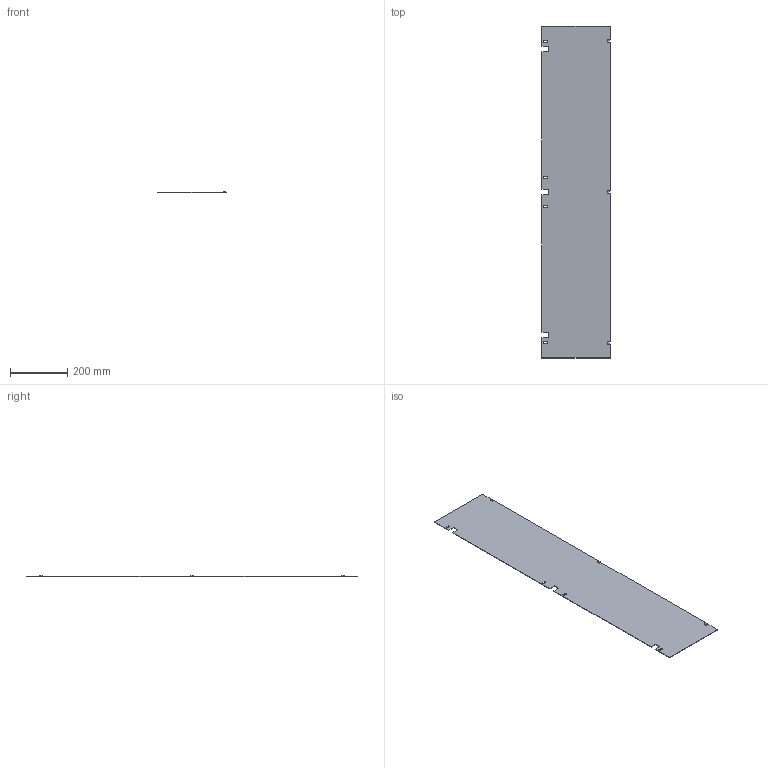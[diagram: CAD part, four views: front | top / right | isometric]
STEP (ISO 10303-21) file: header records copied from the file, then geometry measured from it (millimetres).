
FILE_DESCRIPTION (( 'STEP AP203' ), '1' );
FILE_NAME ('EUSV-025120.STEP', '2015-04-22T09:54:08', ( 'Admin' ), ( '' ), 'SwSTEP 2.0', 'SolidWorks 2014', '' );
FILE_SCHEMA (( 'CONFIG_CONTROL_DESIGN' ));
Length unit declared in the file: millimetre
Products named in the file (1): EUSV-025120
Bounding box: 238 x 1160 x 5.95 mm (x, y, z)
Volume: 411373.5 mm3; surface area: 553282.2 mm2
Topology: 1 solids, 1 shells, 89 faces, 249 edges, 162 vertices
Faces by surface type: plane 65, cylinder 24
Entity records: 2928 total; most frequent: CARTESIAN_POINT 501, ORIENTED_EDGE 498, DIRECTION 477, EDGE_CURVE 249, VECTOR 201, LINE 201, VERTEX_POINT 162, AXIS2_PLACEMENT_3D 138
